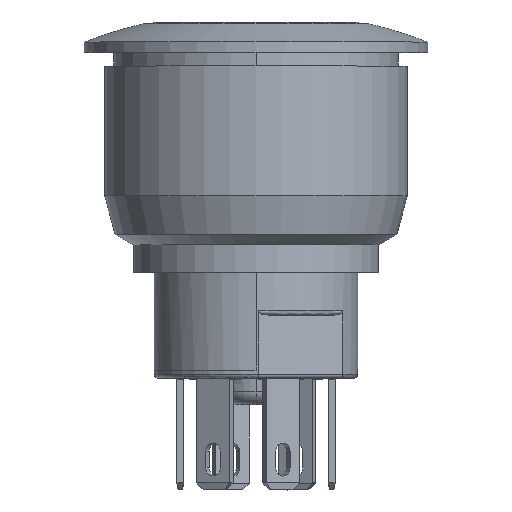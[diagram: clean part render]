
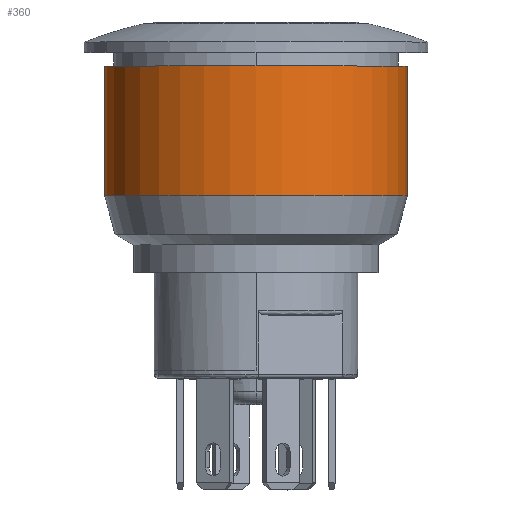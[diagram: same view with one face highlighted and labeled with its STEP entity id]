
A CAD part, top view. The second image highlights one B-rep face of the part: STEP entity #360.
In plain terms, the highlighted cylindrical face has radius 11 mm (diameter 22 mm), a partial arc.
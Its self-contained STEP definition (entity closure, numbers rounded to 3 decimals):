
#44=CARTESIAN_POINT('',(0.,-1.,0.));
#45=DIRECTION('',(0.,1.,0.));
#46=DIRECTION('',(-1.,0.,0.));
#47=AXIS2_PLACEMENT_3D('',#44,#45,#46);
#49=DIRECTION('',(0.,-1.,0.));
#50=VECTOR('',#49,9.422);
#51=CARTESIAN_POINT('',(11.,-1.,0.));
#52=LINE('',#51,#50);
#53=DIRECTION('',(0.,-1.,0.));
#54=VECTOR('',#53,9.422);
#55=CARTESIAN_POINT('',(-11.,-1.,0.));
#56=LINE('',#55,#54);
#61=CARTESIAN_POINT('',(0.,-10.422,0.));
#62=DIRECTION('',(0.,1.,0.));
#63=DIRECTION('',(-1.,0.,0.));
#64=AXIS2_PLACEMENT_3D('',#61,#62,#63);
#251=CARTESIAN_POINT('',(11.,-1.,0.));
#252=CARTESIAN_POINT('',(-11.,-1.,0.));
#253=VERTEX_POINT('',#251);
#254=VERTEX_POINT('',#252);
#255=CARTESIAN_POINT('',(-11.,-10.422,0.));
#256=VERTEX_POINT('',#255);
#257=CARTESIAN_POINT('',(11.,-10.422,0.));
#258=VERTEX_POINT('',#257);
#348=CARTESIAN_POINT('',(0.,3.005,0.));
#349=DIRECTION('',(0.,-1.,0.));
#350=DIRECTION('',(-1.,0.,0.));
#351=AXIS2_PLACEMENT_3D('',#348,#349,#350);
#352=CYLINDRICAL_SURFACE('',#351,11.);
#353=ORIENTED_EDGE('',*,*,#324,.T.);
#354=ORIENTED_EDGE('',*,*,#343,.T.);
#356=ORIENTED_EDGE('',*,*,#355,.F.);
#357=ORIENTED_EDGE('',*,*,#339,.F.);
#358=EDGE_LOOP('',(#353,#354,#356,#357));
#359=FACE_OUTER_BOUND('',#358,.F.);
#48=CIRCLE('',#47,11.);
#65=CIRCLE('',#64,11.);
#324=EDGE_CURVE('',#254,#253,#48,.T.);
#339=EDGE_CURVE('',#254,#256,#56,.T.);
#343=EDGE_CURVE('',#253,#258,#52,.T.);
#355=EDGE_CURVE('',#256,#258,#65,.T.);
#360=ADVANCED_FACE('',(#359),#352,.T.);
